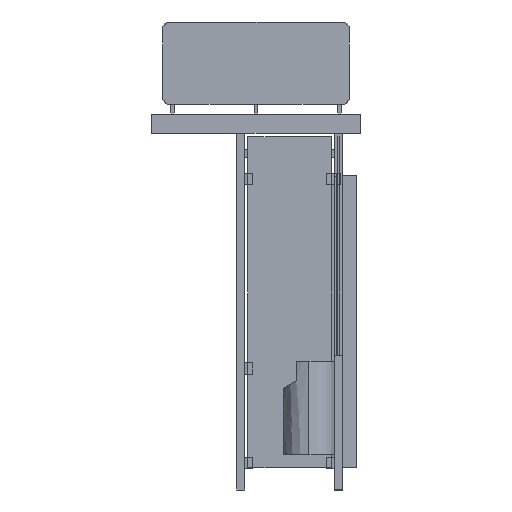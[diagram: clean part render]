
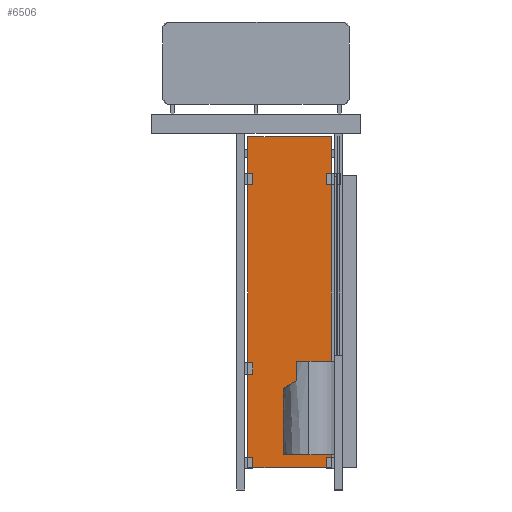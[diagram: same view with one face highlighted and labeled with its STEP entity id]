
A CAD part, front view. The second image highlights one B-rep face of the part: STEP entity #6506.
In plain terms, the highlighted planar face has unit normal (0, -1, 0).
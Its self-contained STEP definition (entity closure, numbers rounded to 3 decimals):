
#6506=ADVANCED_FACE('',(#9264),#40934,.T.);
#9264=FACE_OUTER_BOUND('',#12032,.T.);
#12032=EDGE_LOOP('',(#18670,#18671,#18672,#18673));
#18670=ORIENTED_EDGE('',*,*,#27322,.F.);
#18671=ORIENTED_EDGE('',*,*,#27321,.F.);
#18672=ORIENTED_EDGE('',*,*,#27320,.F.);
#18673=ORIENTED_EDGE('',*,*,#27316,.T.);
#27316=EDGE_CURVE('',#37628,#37629,#32913,.T.);
#27320=EDGE_CURVE('',#37628,#37632,#32917,.T.);
#27321=EDGE_CURVE('',#37632,#37633,#32918,.T.);
#27322=EDGE_CURVE('',#37633,#37629,#32919,.T.);
#32913=B_SPLINE_CURVE_WITH_KNOTS('',1,(#56342,#56343),.UNSPECIFIED.,.F.,
 .F.,(2,2),(0.,830.2),.UNSPECIFIED.);
#32917=B_SPLINE_CURVE_WITH_KNOTS('',1,(#56350,#56351),.UNSPECIFIED.,.F.,
 .F.,(2,2),(0.,2060.),.UNSPECIFIED.);
#32918=B_SPLINE_CURVE_WITH_KNOTS('',1,(#56352,#56353),.UNSPECIFIED.,.F.,
 .F.,(2,2),(0.,830.2),.UNSPECIFIED.);
#32919=B_SPLINE_CURVE_WITH_KNOTS('',1,(#56354,#56355),.UNSPECIFIED.,.F.,
 .F.,(2,2),(-2060.,0.),.UNSPECIFIED.);
#37628=VERTEX_POINT('',#56334);
#37629=VERTEX_POINT('',#56335);
#37632=VERTEX_POINT('',#56338);
#37633=VERTEX_POINT('',#56339);
#40934=PLANE('',#43656);
#43656=AXIS2_PLACEMENT_3D('',#56329,#46362,$);
#46362=DIRECTION('',(0.,-1.,0.));
#56329=CARTESIAN_POINT('',(-70.,-3710.001,140.));
#56334=CARTESIAN_POINT('',(-590.,-3710.001,140.));
#56335=CARTESIAN_POINT('',(-70.,-3710.001,140.));
#56338=CARTESIAN_POINT('',(-590.,-3710.001,2200.));
#56339=CARTESIAN_POINT('',(-70.,-3710.001,2200.));
#56342=CARTESIAN_POINT('',(-590.,-3710.001,140.));
#56343=CARTESIAN_POINT('',(-70.,-3710.001,140.));
#56350=CARTESIAN_POINT('',(-590.,-3710.001,140.));
#56351=CARTESIAN_POINT('',(-590.,-3710.001,2200.));
#56352=CARTESIAN_POINT('',(-590.,-3710.001,2200.));
#56353=CARTESIAN_POINT('',(-70.,-3710.001,2200.));
#56354=CARTESIAN_POINT('',(-70.,-3710.001,2200.));
#56355=CARTESIAN_POINT('',(-70.,-3710.001,140.));
